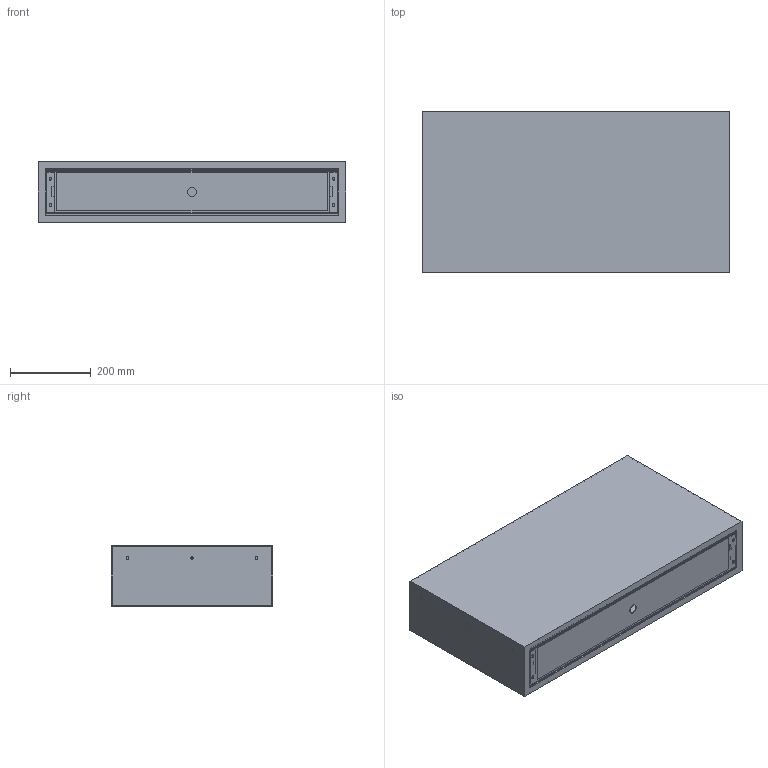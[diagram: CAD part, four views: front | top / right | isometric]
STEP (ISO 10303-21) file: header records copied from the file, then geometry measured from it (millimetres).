
FILE_DESCRIPTION(/* description */ ('STEP AP242 Edition 2','CAx-IF Rec.Pracs.---Representation and Presentation of Product Manufacturing Information (PMI)---4.0---2014-10-13','CAx-IF Rec.Pracs.---3D Tessellated Geometry---0.4---2014-09-14','2;1','CAx-IF Rec.Pracs.---User Defined Attributes---1.5---2016-08-15'),/* implementation_level */ '2;1');
FILE_NAME(/* name */ '6a16ccdce054ca3c19cb5db0',/* time_stamp */ '2026-05-27T10:52:13Z',/* author */ (''),/* organization */ (''),/* preprocessor_version */ 'ST-DEVELOPER v20',/* originating_system */ 'ONSHAPE BY PTC INC, 1.215',/* authorisation */ ' ');
FILE_SCHEMA (('AP242_MANAGED_MODEL_BASED_3D_ENGINEERING_MIM_LF { 1 0 10303 442 3 1 4 }'));
Length unit declared in the file: millimetre
Products named in the file (19): 800; Part 10; Part 4; Part 1; Part 5; Part 7; Part 9; Part 6; Part 3; Part 2; 112 350 assembly-Mirrored <1>; 112 350 assembly <1>; Part 8
Assembly tree (20 placements, depth 3):
  800
    Part 10
    Part 4
    Part 1
    Part 5
    Part 7
    Part 9
    Part 6
    Part 3
    Part 2
    112 350 assembly-Mirrored <1>
      Part 1
      Part 1
      Part 2
      Part 3
    112 350 assembly <1>
      Part 1
      Part 1
      Part 3
      Part 2
    Part 8
Bounding box: 762 x 400 x 150 mm (x, y, z)
Volume: 9279686.4 mm3; surface area: 4982209.7 mm2
Topology: 18 solids, 18 shells, 775 faces, 2104 edges, 1373 vertices
Faces by surface type: plane 418, cylinder 299, torus 40, bspline 14, sphere 4
Full cylindrical faces by diameter (mm): 4 x8, 4.4 x4, 4.45 x4, 4.5 x6, 4.9 x2, 5.1 x2, 5.15 x2, 6 x4, 6.4 x4, 22 x1
Entity records: 23664 total; most frequent: CARTESIAN_POINT 4682, DIRECTION 3851, ORIENTED_EDGE 3786, EDGE_CURVE 1893, LINE 1301, VECTOR 1301, AXIS2_PLACEMENT_3D 1275, VERTEX_POINT 1266
